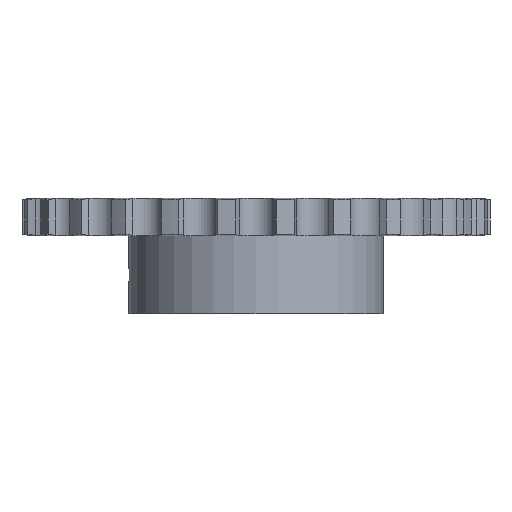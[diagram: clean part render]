
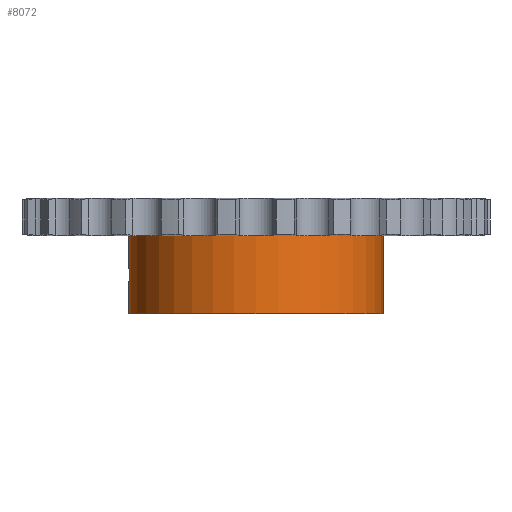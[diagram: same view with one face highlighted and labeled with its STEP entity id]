
A CAD part, front view. The second image highlights one B-rep face of the part: STEP entity #8072.
In plain terms, the highlighted cylindrical face has radius 55 mm (diameter 110 mm), a partial arc.
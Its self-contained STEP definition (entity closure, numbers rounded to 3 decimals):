
#1371=CARTESIAN_POINT('',(0.,0.,-8.1));
#1372=DIRECTION('',(0.,0.,1.));
#1373=DIRECTION('',(-1.,0.,0.));
#1374=AXIS2_PLACEMENT_3D('',#1371,#1372,#1373);
#4055=CARTESIAN_POINT('',(-55.,0.,
-22.));
#4079=DIRECTION('',(0.,0.,1.));
#4080=VECTOR('',#4079,33.8);
#4081=CARTESIAN_POINT('',(55.,0.,-41.9));
#4082=LINE('',#4081,#4080);
#4206=CARTESIAN_POINT('',(-55.,0.,
-22.));
#4207=CARTESIAN_POINT('',(-55.,-0.132,
-22.));
#4208=CARTESIAN_POINT('',(-54.999,-0.395,
-22.017));
#4209=CARTESIAN_POINT('',(-54.995,-0.79,
-22.094));
#4210=CARTESIAN_POINT('',(-54.988,-1.171,
-22.223));
#4211=CARTESIAN_POINT('',(-54.979,-1.531,
-22.4));
#4212=CARTESIAN_POINT('',(-54.969,-1.862,
-22.62));
#4213=CARTESIAN_POINT('',(-54.958,-2.161,
-22.881));
#4214=CARTESIAN_POINT('',(-54.947,-2.422,
-23.178));
#4215=CARTESIAN_POINT('',(-54.937,-2.642,
-23.506));
#4216=CARTESIAN_POINT('',(-54.928,-2.817,
-23.861));
#4217=CARTESIAN_POINT('',(-54.921,-2.943,
-24.234));
#4218=CARTESIAN_POINT('',(-54.917,-3.018,
-24.618));
#4219=CARTESIAN_POINT('',(-54.916,-3.035,
-24.873));
#4220=CARTESIAN_POINT('',(-54.916,-3.035,
-25.));
#4225=DIRECTION('',(0.,0.,1.));
#4226=VECTOR('',#4225,13.9);
#4227=CARTESIAN_POINT('',(-55.,0.,
-22.));
#4228=LINE('',#4227,#4226);
#4232=DIRECTION('',(0.,0.,1.));
#4233=VECTOR('',#4232,13.9);
#4234=CARTESIAN_POINT('',(-55.,0.,-41.9));
#4235=LINE('',#4234,#4233);
#4239=CARTESIAN_POINT('',(-54.916,-3.035,
-25.));
#4240=CARTESIAN_POINT('',(-54.916,-3.035,
-25.127));
#4241=CARTESIAN_POINT('',(-54.917,-3.018,
-25.381));
#4242=CARTESIAN_POINT('',(-54.921,-2.943,
-25.765));
#4243=CARTESIAN_POINT('',(-54.928,-2.817,
-26.138));
#4244=CARTESIAN_POINT('',(-54.937,-2.642,
-26.493));
#4245=CARTESIAN_POINT('',(-54.947,-2.422,
-26.822));
#4246=CARTESIAN_POINT('',(-54.958,-2.161,
-27.118));
#4247=CARTESIAN_POINT('',(-54.969,-1.862,
-27.379));
#4248=CARTESIAN_POINT('',(-54.979,-1.531,
-27.6));
#4249=CARTESIAN_POINT('',(-54.988,-1.172,
-27.777));
#4250=CARTESIAN_POINT('',(-54.995,-0.791,
-27.906));
#4251=CARTESIAN_POINT('',(-54.999,-0.396,
-27.983));
#4252=CARTESIAN_POINT('',(-55.,-0.132,
-28.));
#4253=CARTESIAN_POINT('',(-55.,0.,
-28.));
#4266=CARTESIAN_POINT('',(0.,0.,-41.9));
#4267=DIRECTION('',(0.,0.,-1.));
#4268=DIRECTION('',(1.,0.,0.));
#4269=AXIS2_PLACEMENT_3D('',#4266,#4267,#4268);
#4699=CARTESIAN_POINT('',(-55.,0.,-41.9));
#4700=CARTESIAN_POINT('',(55.,0.,-41.9));
#4701=VERTEX_POINT('',#4699);
#4702=VERTEX_POINT('',#4700);
#4703=CARTESIAN_POINT('',(55.,0.,-8.1));
#4704=VERTEX_POINT('',#4703);
#4705=CARTESIAN_POINT('',(-55.,0.,-8.1));
#4706=VERTEX_POINT('',#4705);
#4986=VERTEX_POINT('',#4055);
#4989=VERTEX_POINT('',#4220);
#4991=VERTEX_POINT('',#4253);
#8056=CARTESIAN_POINT('',(0.,0.,8.1));
#8057=DIRECTION('',(0.,0.,1.));
#8058=DIRECTION('',(1.,0.,0.));
#8059=AXIS2_PLACEMENT_3D('',#8056,#8057,#8058);
#8060=CYLINDRICAL_SURFACE('',#8059,55.);
#8061=ORIENTED_EDGE('',*,*,#8046,.F.);
#8062=ORIENTED_EDGE('',*,*,#7629,.T.);
#8063=ORIENTED_EDGE('',*,*,#6418,.T.);
#8064=ORIENTED_EDGE('',*,*,#7626,.F.);
#8066=ORIENTED_EDGE('',*,*,#8065,.T.);
#8067=ORIENTED_EDGE('',*,*,#7622,.T.);
#8069=ORIENTED_EDGE('',*,*,#8068,.F.);
#8070=EDGE_LOOP('',(#8061,#8062,#8063,#8064,#8066,#8067,#8069));
#8071=FACE_OUTER_BOUND('',#8070,.F.);
#8072=ADVANCED_FACE('',(#8071),#8060,.T.);
#1375=CIRCLE('',#1374,55.);
#4221=B_SPLINE_CURVE_WITH_KNOTS('',3,(#4206,#4207,#4208,#4209,#4210,#4211,#4212,
#4213,#4214,#4215,#4216,#4217,#4218,#4219,#4220),.UNSPECIFIED.,.F.,.F.,(4,1,1,1,
1,1,1,1,1,1,1,1,4),(0.,0.083,0.167,0.25,
0.333,0.417,0.5,0.583,0.667,
0.75,0.833,0.917,1.),.UNSPECIFIED.);
#4254=B_SPLINE_CURVE_WITH_KNOTS('',3,(#4239,#4240,#4241,#4242,#4243,#4244,#4245,
#4246,#4247,#4248,#4249,#4250,#4251,#4252,#4253),.UNSPECIFIED.,.F.,.F.,(4,1,1,1,
1,1,1,1,1,1,1,1,4),(0.,0.083,0.167,0.25,
0.333,0.417,0.5,0.583,0.667,
0.75,0.833,0.917,1.),.UNSPECIFIED.);
#4270=CIRCLE('',#4269,55.);
#6418=EDGE_CURVE('',#4706,#4704,#1375,.T.);
#7622=EDGE_CURVE('',#4701,#4991,#4235,.T.);
#7626=EDGE_CURVE('',#4702,#4704,#4082,.T.);
#7629=EDGE_CURVE('',#4986,#4706,#4228,.T.);
#8046=EDGE_CURVE('',#4986,#4989,#4221,.T.);
#8065=EDGE_CURVE('',#4702,#4701,#4270,.T.);
#8068=EDGE_CURVE('',#4989,#4991,#4254,.T.);
